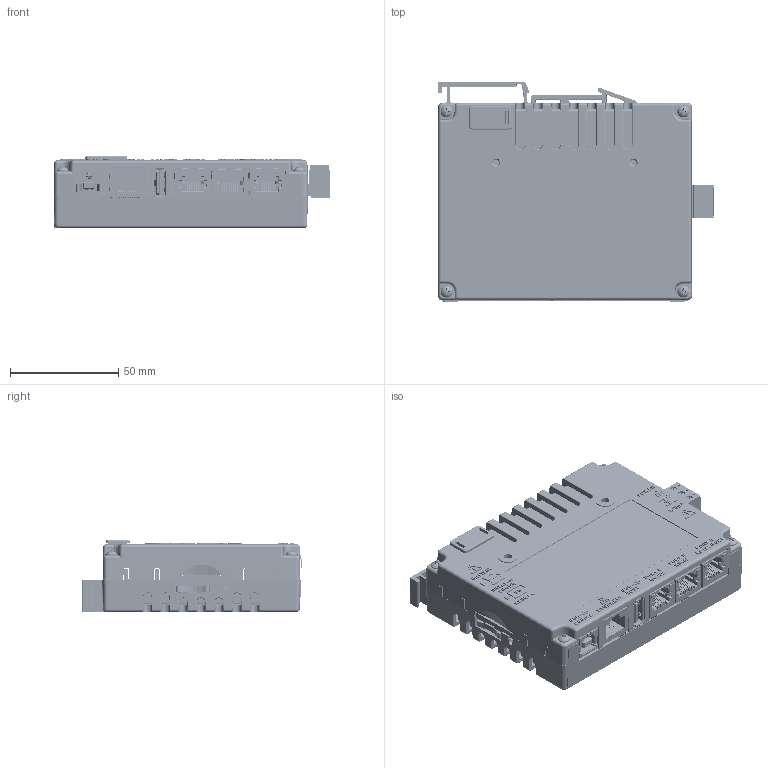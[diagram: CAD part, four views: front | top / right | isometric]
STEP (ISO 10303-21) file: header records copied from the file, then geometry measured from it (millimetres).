
FILE_DESCRIPTION(/* description */ ('Unknown'),/* implementation_level */ '2;1');
FILE_NAME(/* name */ 'DA30D',/* time_stamp */ '2019-01-10T12:07:50-05:00',/* author */ ('Unknown'),/* organization */ ('Unknown'),/* preprocessor_version */ 'ST-DEVELOPER v16.7',/* originating_system */ 'DEX',/* authorisation */ $);
FILE_SCHEMA (('AP203_CONFIGURATION_CONTROLLED_3D_DESIGN_OF_MECHANICAL_PARTS_AND_ASSEMBLIES_MIM_LF { 1 0 10303 203 3 1 4 }','AUTOMOTIVE_DESIGN {1 0 10303 214 3 1 1}'));
Products named in the file (63): CRDSP2; 10527_EM10460B; DSP-LE with CR3_1_1; DSP-LE with CR3_1_2; DSP-LE with CR3_1_3; DSP-LE with CR3_1_4; _ZW-05-10-G-D-500-110bbody;_ZW-05-10-G-D-500-110bbody; 10067847001rlf;10067847001rlf; DSP-LE with CR3_1_5; APBA3010;APBA3010; USBR-A-S-X-O-VU;USBR-A-S-X-O-VU; USBR-A-S-X-O-VU;USBR-A-S-X-O-VU_0; 5019514010;5019514010; DSP-LE with CR3_1_6; DSP-LE with CR3_1_7; DSP-LE with CR3_1_8; DSP-LE with CR3_1_9; 395340003; DSP-LE with CR3_1_10; DSP-LE with CR3_1_11; DSP-LE with CR3_1_12; DSP-LE with CR3_1_13; DSP-LE with CR3_1_14; DSP-LE with CR3_1_15; DSP-LE with CR3_1_16; DSP-LE with CR3_1_17; DSP-LE with CR3_1_18; DSP-LE with CR3_1_19; DSP-LE with CR3_1_20; DSP-LE with CR3_1_21; DSP-LE with CR3_1_22; DSP-LE with CR3_1_23; DSP-LE with CR3_1_24; DSP-LE with CR3_1_25; DSP-LE with CR3_1_26; DSP-LE with CR3_1_27; DSP-LE with CR3_1_28; DSP-LE with CR3_1_29; DSP-LE with CR3_1_30; DSP-LE with CR3_1_31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
Assembly tree (62 placements, depth 2):
  CRDSP2
    10527_EM10460B
    DSP-LE with CR3_1_1
    DSP-LE with CR3_1_2
    DSP-LE with CR3_1_3
    DSP-LE with CR3_1_4
    _ZW-05-10-G-D-500-110bbody;_ZW-05-10-G-D-500-110bbody
    10067847001rlf;10067847001rlf
    DSP-LE with CR3_1_5
    APBA3010;APBA3010
    USBR-A-S-X-O-VU;USBR-A-S-X-O-VU
    USBR-A-S-X-O-VU;USBR-A-S-X-O-VU_0
    5019514010;5019514010
    DSP-LE with CR3_1_6
    DSP-LE with CR3_1_7
    DSP-LE with CR3_1_8
    DSP-LE with CR3_1_9
    395340003
    DSP-LE with CR3_1_10
    DSP-LE with CR3_1_11
    DSP-LE with CR3_1_12
    DSP-LE with CR3_1_13
    DSP-LE with CR3_1_14
    DSP-LE with CR3_1_15
    DSP-LE with CR3_1_16
    DSP-LE with CR3_1_17
    DSP-LE with CR3_1_18
    DSP-LE with CR3_1_19
    DSP-LE with CR3_1_20
    DSP-LE with CR3_1_21
    DSP-LE with CR3_1_22
    DSP-LE with CR3_1_23
    DSP-LE with CR3_1_24
    DSP-LE with CR3_1_25
    DSP-LE with CR3_1_26
    DSP-LE with CR3_1_27
    DSP-LE with CR3_1_28
    DSP-LE with CR3_1_29
    DSP-LE with CR3_1_30
    DSP-LE with CR3_1_31
    DSP-LE with CR3_1_32
    DSP-LE with CR3_1_33
    DSP-LE with CR3_1_34
    DSP-LE with CR3_1_35
    DSP-LE with CR3_1_36
    DSP-LE with CR3_1_37
    DSP-LE with CR3_1_38
    DSP-LE with CR3_1_39
    DSP-LE with CR3_1_40
    DSP-LE with CR3_1_41
    DSP-LE with CR3_1_42
    DSP-LE with CR3_1_43
    DSP-LE with CR3_1_44
    DSP-LE with CR3_1_45
    DSP-LE with CR3_1_46
    DSP-LE with CR3_1_47
    DSP-LE with CR3_1_48
    DSP-LE with CR3_1_49
    DSP-LE with CR3_1_50
    DSP-LE with CR3_1_51
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Bounding box: 127.68 x 101.4 x 33.27 mm (x, y, z)
Volume: 113996.1 mm3; surface area: 150408.4 mm2
Topology: 62 solids, 68 shells, 12886 faces, 36651 edges, 24013 vertices
Faces by surface type: plane 9651, cylinder 2224, bspline 655, cone 238, torus 94, sphere 24
Full cylindrical faces by diameter (mm): 0.46 x2, 0.5 x5, 0.6 x2, 0.635 x2, 0.8 x1, 0.899 x2, 0.9 x1, 1.359 x2, 1.4 x1, 1.524 x3, 1.905 x1, 2 x1, 2.007 x3, 2.1 x1, 2.5 x1, 2.794 x3, 3.048 x6, 3.1 x2, 3.175 x6, 3.226 x4, 3.251 x2, 3.81 x2, 4.763 x2, 5.563 x4, 8.89 x4, 9 x1, 9.754 x1, 12.446 x1
Entity records: 478673 total; most frequent: CARTESIAN_POINT 112571, ORIENTED_EDGE 72944, DIRECTION 64274, EDGE_CURVE 36472, LINE 29402, VECTOR 29402, VERTEX_POINT 23967, AXIS2_PLACEMENT_3D 17436
